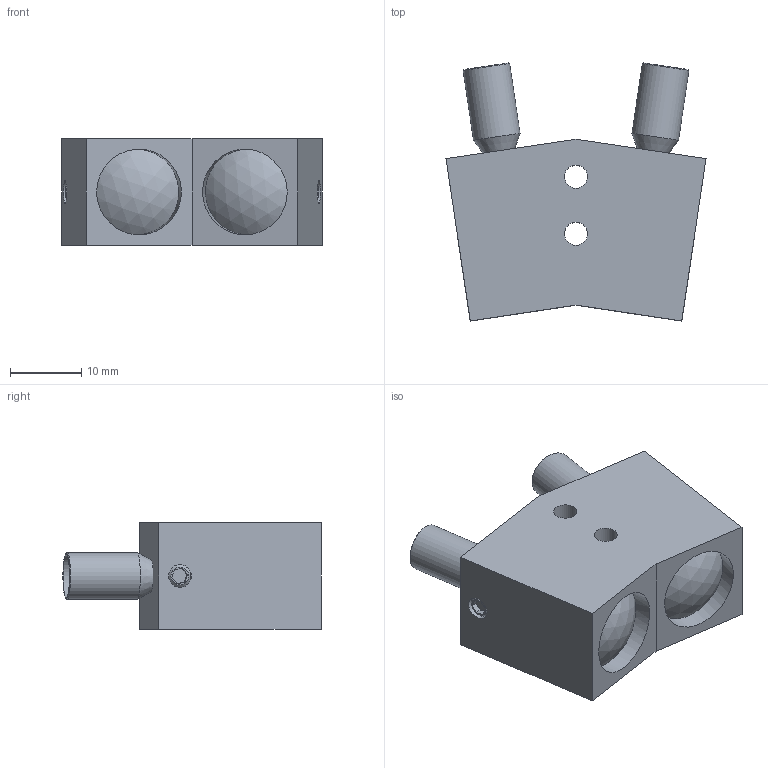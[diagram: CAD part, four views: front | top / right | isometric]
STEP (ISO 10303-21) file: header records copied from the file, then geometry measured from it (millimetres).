
FILE_DESCRIPTION((''),'2;1');
FILE_NAME('Q:\Konstruktion\E-Mail-Zeichnungen\STEP\KL-17.stp','2007-02-07T18:58:50',('GuentherB'),(''),'Autodesk Inventor 11','Autodesk Inventor 11','');
FILE_SCHEMA(('AUTOMOTIVE_DESIGN { 1 0 10303 214 1 1 1 1 }'));
Length unit declared in the file: millimetre
Products named in the file (1): Bauteil3
Bounding box: 36.47 x 36.2 x 15 mm (x, y, z)
Volume: 11313.6 mm3; surface area: 4580.8 mm2
Topology: 1 solids, 1 shells, 46 faces, 103 edges, 69 vertices
Faces by surface type: plane 28, cone 6, bspline 6, cylinder 4, sphere 2
Full cylindrical faces by diameter (mm): 6 x2, 6.6 x2
Entity records: 1247 total; most frequent: CARTESIAN_POINT 291, DIRECTION 188, ORIENTED_EDGE 160, EDGE_CURVE 80, EDGE_LOOP 76, AXIS2_PLACEMENT_3D 67, VERTEX_POINT 62, VECTOR 54
